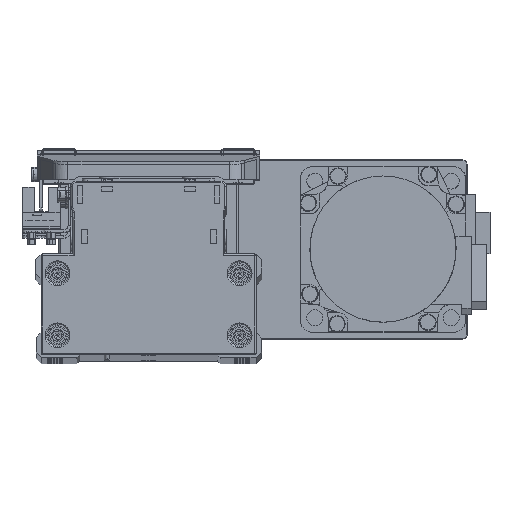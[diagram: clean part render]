
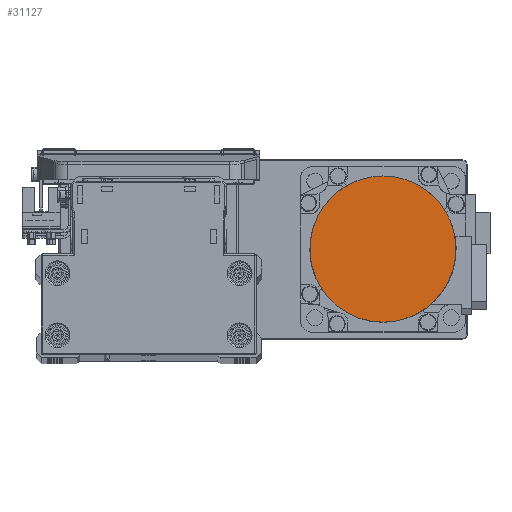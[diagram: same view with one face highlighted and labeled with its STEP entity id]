
A CAD part, top view. The second image highlights one B-rep face of the part: STEP entity #31127.
In plain terms, the highlighted planar face has unit normal (0, 0, 1) as drawn and (0, 0, -1) by its records, which use the part's own axes.
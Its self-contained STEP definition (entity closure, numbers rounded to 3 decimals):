
#412 = CARTESIAN_POINT ( 'NONE',  ( 26.5, 0., -88. ) ) ;
#1303 = CARTESIAN_POINT ( 'NONE',  ( -23.819, -11.744, -88. ) ) ;
#1450 = PLANE ( 'NONE',  #14088 ) ;
#1519 = CARTESIAN_POINT ( 'NONE',  ( 3.469, -26.329, -88. ) ) ;
#1727 = CARTESIAN_POINT ( 'NONE',  ( 26.329, -3.469, -88. ) ) ;
#1764 = CARTESIAN_POINT ( 'NONE',  ( 19.965, 17.512, -88. ) ) ;
#1982 = CARTESIAN_POINT ( 'NONE',  ( -11.744, 23.819, -88. ) ) ;
#2660 = ORIENTED_EDGE ( 'NONE', *, *, #38515, .F. ) ;
#2822 = B_SPLINE_CURVE_WITH_KNOTS ( 'NONE', 3,
 ( #20819, #33914, #4531, #17599, #30704, #1303, #14380, #27476, #40567, #11175, #24246, #37340, #7963, #21041, #34135, #4745, #17807, #30911, #1519, #14588, #27689, #40773, #11388, #24469, #37562, #8178, #21245, #34341, #4961, #18019, #31124, #1727, #14797, #27906 ),
 .UNSPECIFIED., .F., .F.,
 ( 4, 2, 2, 2, 2, 2, 2, 2, 2, 2, 2, 2, 2, 2, 2, 2, 4 ),
 ( 0., 0.063, 0.125, 0.188, 0.25, 0.313, 0.375, 0.438, 0.5, 0.563, 0.625, 0.688, 0.75, 0.813, 0.875, 0.938, 1. ),
 .UNSPECIFIED. ) ;
#4531 = CARTESIAN_POINT ( 'NONE',  ( -26.329, -3.469, -88. ) ) ;
#4745 = CARTESIAN_POINT ( 'NONE',  ( -3.469, -26.329, -88. ) ) ;
#4961 = CARTESIAN_POINT ( 'NONE',  ( 23.819, -11.744, -88. ) ) ;
#4992 = CARTESIAN_POINT ( 'NONE',  ( 23.819, 11.744, -88. ) ) ;
#5199 = CARTESIAN_POINT ( 'NONE',  ( -3.469, 26.329, -88. ) ) ;
#5411 = CARTESIAN_POINT ( 'NONE',  ( -26.329, 3.469, -88. ) ) ;
#7963 = CARTESIAN_POINT ( 'NONE',  ( -11.744, -23.819, -88. ) ) ;
#8178 = CARTESIAN_POINT ( 'NONE',  ( 19.965, -17.512, -88. ) ) ;
#8214 = CARTESIAN_POINT ( 'NONE',  ( 26.329, 3.469, -88. ) ) ;
#8428 = CARTESIAN_POINT ( 'NONE',  ( 3.469, 26.329, -88. ) ) ;
#8636 = CARTESIAN_POINT ( 'NONE',  ( -23.819, 11.744, -88. ) ) ;
#11175 = CARTESIAN_POINT ( 'NONE',  ( -17.512, -19.965, -88. ) ) ;
#11388 = CARTESIAN_POINT ( 'NONE',  ( 13.28, -22.998, -88. ) ) ;
#11636 = CARTESIAN_POINT ( 'NONE',  ( 11.744, 23.819, -88. ) ) ;
#11843 = CARTESIAN_POINT ( 'NONE',  ( -19.965, 17.512, -88. ) ) ;
#12953 = B_SPLINE_CURVE_WITH_KNOTS ( 'NONE', 3,
 ( #24505, #37592, #8214, #21282, #34379, #4992, #18053, #31157, #1764, #14837, #27943, #41024, #11636, #24710, #37809, #8428, #21494, #34583, #5199, #18266, #31377, #1982, #15047, #28147, #41239, #11843, #24918, #38015, #8636, #21703, #34799, #5411, #18472, #31574 ),
 .UNSPECIFIED., .F., .F.,
 ( 4, 2, 2, 2, 2, 2, 2, 2, 2, 2, 2, 2, 2, 2, 2, 2, 4 ),
 ( 0., 0.063, 0.125, 0.188, 0.25, 0.313, 0.375, 0.438, 0.5, 0.563, 0.625, 0.688, 0.75, 0.813, 0.875, 0.938, 1. ),
 .UNSPECIFIED. ) ;
#14088 = AXIS2_PLACEMENT_3D ( 'NONE', #14526, #27624, #40711 ) ;
#14380 = CARTESIAN_POINT ( 'NONE',  ( -22.998, -13.28, -88. ) ) ;
#14526 = CARTESIAN_POINT ( 'NONE',  ( 0., 0., -88. ) ) ;
#14588 = CARTESIAN_POINT ( 'NONE',  ( 6.871, -25.652, -88. ) ) ;
#14797 = CARTESIAN_POINT ( 'NONE',  ( 26.5, -1.734, -88. ) ) ;
#14837 = CARTESIAN_POINT ( 'NONE',  ( 17.512, 19.965, -88. ) ) ;
#15047 = CARTESIAN_POINT ( 'NONE',  ( -13.28, 22.998, -88. ) ) ;
#15869 = VERTEX_POINT ( 'NONE', #32359 ) ;
#17599 = CARTESIAN_POINT ( 'NONE',  ( -25.652, -6.871, -88. ) ) ;
#17807 = CARTESIAN_POINT ( 'NONE',  ( -1.734, -26.5, -88. ) ) ;
#17951 = EDGE_LOOP ( 'NONE', ( #2660, #31556 ) ) ;
#18019 = CARTESIAN_POINT ( 'NONE',  ( 25.147, -8.539, -88. ) ) ;
#18053 = CARTESIAN_POINT ( 'NONE',  ( 22.998, 13.28, -88. ) ) ;
#18266 = CARTESIAN_POINT ( 'NONE',  ( -6.871, 25.652, -88. ) ) ;
#18472 = CARTESIAN_POINT ( 'NONE',  ( -26.5, 1.734, -88. ) ) ;
#20819 = CARTESIAN_POINT ( 'NONE',  ( -26.5, 0., -88. ) ) ;
#21041 = CARTESIAN_POINT ( 'NONE',  ( -8.539, -25.147, -88. ) ) ;
#21245 = CARTESIAN_POINT ( 'NONE',  ( 21.07, -16.165, -88. ) ) ;
#21282 = CARTESIAN_POINT ( 'NONE',  ( 25.652, 6.871, -88. ) ) ;
#21494 = CARTESIAN_POINT ( 'NONE',  ( 1.734, 26.5, -88. ) ) ;
#21703 = CARTESIAN_POINT ( 'NONE',  ( -25.147, 8.539, -88. ) ) ;
#23761 = EDGE_CURVE ( 'NONE', #15869, #24053, #2822, .T. ) ;
#24053 = VERTEX_POINT ( 'NONE', #412 ) ;
#24246 = CARTESIAN_POINT ( 'NONE',  ( -16.165, -21.07, -88. ) ) ;
#24469 = CARTESIAN_POINT ( 'NONE',  ( 16.165, -21.07, -88. ) ) ;
#24505 = CARTESIAN_POINT ( 'NONE',  ( 26.5, 0., -88. ) ) ;
#24710 = CARTESIAN_POINT ( 'NONE',  ( 8.539, 25.147, -88. ) ) ;
#24918 = CARTESIAN_POINT ( 'NONE',  ( -21.07, 16.165, -88. ) ) ;
#27476 = CARTESIAN_POINT ( 'NONE',  ( -21.07, -16.165, -88. ) ) ;
#27624 = DIRECTION ( 'NONE',  ( 0., 0., 1. ) ) ;
#27689 = CARTESIAN_POINT ( 'NONE',  ( 8.539, -25.147, -88. ) ) ;
#27906 = CARTESIAN_POINT ( 'NONE',  ( 26.5, 0., -88. ) ) ;
#27943 = CARTESIAN_POINT ( 'NONE',  ( 16.165, 21.07, -88. ) ) ;
#28147 = CARTESIAN_POINT ( 'NONE',  ( -16.165, 21.07, -88. ) ) ;
#30704 = CARTESIAN_POINT ( 'NONE',  ( -25.147, -8.539, -88. ) ) ;
#30845 = FACE_OUTER_BOUND ( 'NONE', #17951, .T. ) ;
#30911 = CARTESIAN_POINT ( 'NONE',  ( 1.734, -26.5, -88. ) ) ;
#31124 = CARTESIAN_POINT ( 'NONE',  ( 25.652, -6.871, -88. ) ) ;
#31127 = ADVANCED_FACE ( 'NONE', ( #30845 ), #1450, .F. ) ;
#31157 = CARTESIAN_POINT ( 'NONE',  ( 21.07, 16.165, -88. ) ) ;
#31377 = CARTESIAN_POINT ( 'NONE',  ( -8.539, 25.147, -88. ) ) ;
#31556 = ORIENTED_EDGE ( 'NONE', *, *, #23761, .F. ) ;
#31574 = CARTESIAN_POINT ( 'NONE',  ( -26.5, 0., -88. ) ) ;
#32359 = CARTESIAN_POINT ( 'NONE',  ( -26.5, 0., -88. ) ) ;
#33914 = CARTESIAN_POINT ( 'NONE',  ( -26.5, -1.734, -88. ) ) ;
#34135 = CARTESIAN_POINT ( 'NONE',  ( -6.871, -25.652, -88. ) ) ;
#34341 = CARTESIAN_POINT ( 'NONE',  ( 22.998, -13.28, -88. ) ) ;
#34379 = CARTESIAN_POINT ( 'NONE',  ( 25.147, 8.539, -88. ) ) ;
#34583 = CARTESIAN_POINT ( 'NONE',  ( -1.734, 26.5, -88. ) ) ;
#34799 = CARTESIAN_POINT ( 'NONE',  ( -25.652, 6.871, -88. ) ) ;
#37340 = CARTESIAN_POINT ( 'NONE',  ( -13.28, -22.998, -88. ) ) ;
#37562 = CARTESIAN_POINT ( 'NONE',  ( 17.512, -19.965, -88. ) ) ;
#37592 = CARTESIAN_POINT ( 'NONE',  ( 26.5, 1.734, -88. ) ) ;
#37809 = CARTESIAN_POINT ( 'NONE',  ( 6.871, 25.652, -88. ) ) ;
#38015 = CARTESIAN_POINT ( 'NONE',  ( -22.998, 13.28, -88. ) ) ;
#38515 = EDGE_CURVE ( 'NONE', #24053, #15869, #12953, .T. ) ;
#40567 = CARTESIAN_POINT ( 'NONE',  ( -19.965, -17.512, -88. ) ) ;
#40711 = DIRECTION ( 'NONE',  ( 1., 0., 0. ) ) ;
#40773 = CARTESIAN_POINT ( 'NONE',  ( 11.744, -23.819, -88. ) ) ;
#41024 = CARTESIAN_POINT ( 'NONE',  ( 13.28, 22.998, -88. ) ) ;
#41239 = CARTESIAN_POINT ( 'NONE',  ( -17.512, 19.965, -88. ) ) ;
